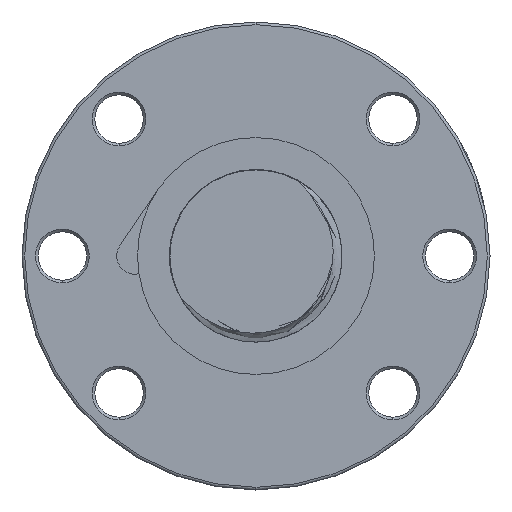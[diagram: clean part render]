
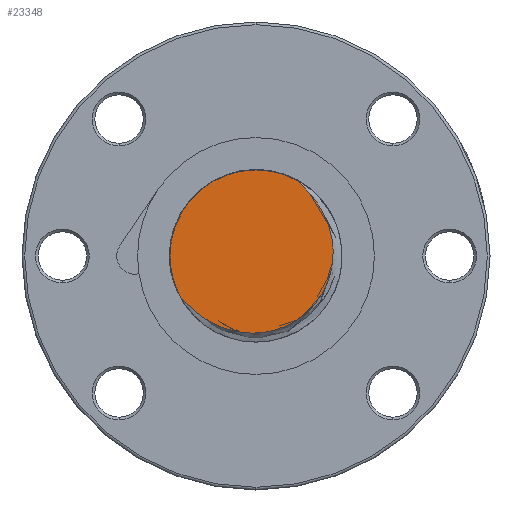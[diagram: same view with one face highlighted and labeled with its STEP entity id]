
A CAD part, left-side view. The second image highlights one B-rep face of the part: STEP entity #23348.
In plain terms, the highlighted planar face has unit normal (-1, 0, 0).
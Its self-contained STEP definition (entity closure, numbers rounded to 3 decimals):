
#5224 = FACE_OUTER_BOUND ( 'NONE', #23349, .T. ) ;
#5227 = DIRECTION ( 'NONE',  ( 0., 0., -1. ) ) ;
#5228 = DIRECTION ( 'NONE',  ( 1., 0., 0. ) ) ;
#5229 = CARTESIAN_POINT ( 'NONE',  ( -107., 0., 0. ) ) ;
#5230 = AXIS2_PLACEMENT_3D ( 'NONE', #5229, #5228, #5227 ) ;
#5237 = PLANE ( 'NONE',  #5230 ) ;
#5247 = CARTESIAN_POINT ( 'NONE',  ( -107., -0.482, -14.32 ) ) ;
#5248 = CARTESIAN_POINT ( 'NONE',  ( -107., 0.074, -14.35 ) ) ;
#5249 = CARTESIAN_POINT ( 'NONE',  ( -107., 1.19, -14.348 ) ) ;
#5250 = CARTESIAN_POINT ( 'NONE',  ( -107., 1.753, -14.317 ) ) ;
#5251 = CARTESIAN_POINT ( 'NONE',  ( -107., 3.435, -14.131 ) ) ;
#5252 = CARTESIAN_POINT ( 'NONE',  ( -107., -3.237, -13.861 ) ) ;
#5253 = CARTESIAN_POINT ( 'NONE',  ( -107., -7.809, -11.792 ) ) ;
#5254 = CARTESIAN_POINT ( 'NONE',  ( -107., -6.378, -12.683 ) ) ;
#5255 = CARTESIAN_POINT ( 'NONE',  ( -107., -5.37, -13.159 ) ) ;
#5256 = CARTESIAN_POINT ( 'NONE',  ( -107., -2.14, -14.108 ) ) ;
#5257 = CARTESIAN_POINT ( 'NONE',  ( -107., -1.589, -14.199 ) ) ;
#5258 = CARTESIAN_POINT ( 'NONE',  ( -107., -3.782, -13.707 ) ) ;
#5259 = CARTESIAN_POINT ( 'NONE',  ( -107., -9.15, -10.768 ) ) ;
#5260 = CARTESIAN_POINT ( 'NONE',  ( -107., -8.273, -11.465 ) ) ;
#5261 = CARTESIAN_POINT ( 'NONE',  ( -107., -11.761, -7.853 ) ) ;
#5262 = CARTESIAN_POINT ( 'NONE',  ( -107., -11.432, -8.315 ) ) ;
#5263 = CARTESIAN_POINT ( 'NONE',  ( -107., -10.73, -9.193 ) ) ;
#5264 = CARTESIAN_POINT ( 'NONE',  ( -107., -9.983, -10.025 ) ) ;
#5265 = CARTESIAN_POINT ( 'NONE',  ( -107., -13.137, -5.424 ) ) ;
#5266 = CARTESIAN_POINT ( 'NONE',  ( -107., -13.848, -3.287 ) ) ;
#5267 = CARTESIAN_POINT ( 'NONE',  ( -107., -13.691, -3.832 ) ) ;
#5268 = CARTESIAN_POINT ( 'NONE',  ( -107., -12.656, -6.43 ) ) ;
#5269 = CARTESIAN_POINT ( 'NONE',  ( -107., -14.19, -1.644 ) ) ;
#5270 = CARTESIAN_POINT ( 'NONE',  ( -107., -14.097, -2.194 ) ) ;
#5271 = CARTESIAN_POINT ( 'NONE',  ( -107., -14.317, -0.536 ) ) ;
#5272 = CARTESIAN_POINT ( 'NONE',  ( -107., -12.457, 8.126 ) ) ;
#5273 = CARTESIAN_POINT ( 'NONE',  ( -107., -11.6, 9.565 ) ) ;
#5274 = CARTESIAN_POINT ( 'NONE',  ( -107., -11.901, 9.094 ) ) ;
#5275 = CARTESIAN_POINT ( 'NONE',  ( -107., -14.14, 3.385 ) ) ;
#5276 = CARTESIAN_POINT ( 'NONE',  ( -107., -13.17, 6.606 ) ) ;
#5277 = CARTESIAN_POINT ( 'NONE',  ( -107., -13.375, 6.077 ) ) ;
#5278 = CARTESIAN_POINT ( 'NONE',  ( -107., -12.711, 7.629 ) ) ;
#5279 = CARTESIAN_POINT ( 'NONE',  ( -107., -13.902, 4.476 ) ) ;
#5280 = CARTESIAN_POINT ( 'NONE',  ( -107., -14.321, 1.713 ) ) ;
#5281 = CARTESIAN_POINT ( 'NONE',  ( -107., -14.351, 1.147 ) ) ;
#5282 = CARTESIAN_POINT ( 'NONE',  ( -107., -14.349, 0.023 ) ) ;
#5283 = CARTESIAN_POINT ( 'NONE',  ( -107., -8.74, 13.036 ) ) ;
#5284 = CARTESIAN_POINT ( 'NONE',  ( -107., -8.161, 13.651 ) ) ;
#5285 = CARTESIAN_POINT ( 'NONE',  ( -107., -9.512, 12.214 ) ) ;
#5286 = CARTESIAN_POINT ( 'NONE',  ( -107., -8.935, 12.832 ) ) ;
#5287 = CARTESIAN_POINT ( 'NONE',  ( -107., -8.354, 13.446 ) ) ;
#5288 = CARTESIAN_POINT ( 'NONE',  ( -107., -9.889, 11.796 ) ) ;
#5289 = CARTESIAN_POINT ( 'NONE',  ( -107., -10.609, 10.93 ) ) ;
#5290 = CARTESIAN_POINT ( 'NONE',  ( -107., -10.954, 10.482 ) ) ;
#5291 = CARTESIAN_POINT ( 'NONE',  ( -107., -7.981, 13.868 ) ) ;
#5309 = CARTESIAN_POINT ( 'NONE',  ( -107., 13.039, -8.737 ) ) ;
#5310 = CARTESIAN_POINT ( 'NONE',  ( -107., 13.448, -8.351 ) ) ;
#5311 = CARTESIAN_POINT ( 'NONE',  ( -107., 13.652, -8.159 ) ) ;
#5312 = CARTESIAN_POINT ( 'NONE',  ( -107., 4.524, -13.891 ) ) ;
#5313 = CARTESIAN_POINT ( 'NONE',  ( -107., 6.113, -13.363 ) ) ;
#5314 = CARTESIAN_POINT ( 'NONE',  ( -107., 6.635, -13.159 ) ) ;
#5315 = CARTESIAN_POINT ( 'NONE',  ( -107., 7.663, -12.694 ) ) ;
#5316 = CARTESIAN_POINT ( 'NONE',  ( -107., 8.163, -12.436 ) ) ;
#5317 = CARTESIAN_POINT ( 'NONE',  ( -107., 9.613, -11.599 ) ) ;
#5318 = CARTESIAN_POINT ( 'NONE',  ( -107., 10.519, -10.953 ) ) ;
#5319 = CARTESIAN_POINT ( 'NONE',  ( -107., 11.805, -9.882 ) ) ;
#5320 = CARTESIAN_POINT ( 'NONE',  ( -107., 12.221, -9.507 ) ) ;
#5321 = CARTESIAN_POINT ( 'NONE',  ( -107., 12.836, -8.931 ) ) ;
#5322 = CARTESIAN_POINT ( 'NONE',  ( -107., 13.869, -7.979 ) ) ;
#5323 = B_SPLINE_CURVE_WITH_KNOTS ( 'NONE', 3,
 ( #5322, #5311, #5310, #5309, #5321, #5320, #5319, #5318, #5317, #5316, #5315, #5314, #5313, #5312, #5251, #5250, #5249, #5248, #5247, #5257, #5256, #5252, #5258, #5255, #5254, #5253, #5260, #5259, #5264, #5263, #5262, #5261, #5268, #5265, #5267, #5266, #5270, #5269, #5271, #5282, #5281, #5280, #5275, #5279, #5277, #5276, #5278, #5272, #5274, #5273, #5290, #5289, #5288, #5285, #5286, #5283, #5287, #5284, #5291 ),
 .UNSPECIFIED., .F., .F.,
 ( 4, 2, 2, 2, 2, 2, 2, 2, 2, 2, 2, 2, 2, 2, 1, 2, 2, 2, 2, 2, 2, 2, 2, 2, 2, 2, 2, 2, 2, 4 ),
 ( 0.012, 0.013, 0.014, 0.015, 0.019, 0.02, 0.022, 0.025, 0.027, 0.028, 0.03, 0.032, 0.035, 0.037, 0.038, 0.04, 0.042, 0.045, 0.047, 0.048, 0.05, 0.052, 0.055, 0.057, 0.058, 0.06, 0.062, 0.063, 0.064, 0.065 ),
 .UNSPECIFIED. ) ;
#5609 = CARTESIAN_POINT ( 'NONE',  ( -107., 0., 16. ) ) ;
#5610 = CARTESIAN_POINT ( 'NONE',  ( -107., 13.869, -7.979 ) ) ;
#5611 = DIRECTION ( 'NONE',  ( 0., 1., 0. ) ) ;
#5612 = DIRECTION ( 'NONE',  ( 1., 0., 0. ) ) ;
#5613 = CARTESIAN_POINT ( 'NONE',  ( -107., 0., 0. ) ) ;
#5614 = AXIS2_PLACEMENT_3D ( 'NONE', #5613, #5612, #5611 ) ;
#5619 = CIRCLE ( 'NONE', #5614, 16. ) ;
#22558 = EDGE_CURVE ( 'NONE', #23448, #22559, #25111, .T. ) ;
#22559 = VERTEX_POINT ( 'NONE', #25107 ) ;
#23221 = ORIENTED_EDGE ( 'NONE', *, *, #22558, .F. ) ;
#23348 = ADVANCED_FACE ( 'NONE', ( #5224 ), #5237, .F. ) ;
#23349 = EDGE_LOOP ( 'NONE', ( #23351, #23355, #23221 ) ) ;
#23351 = ORIENTED_EDGE ( 'NONE', *, *, #23446, .F. ) ;
#23355 = ORIENTED_EDGE ( 'NONE', *, *, #23356, .T. ) ;
#23356 = EDGE_CURVE ( 'NONE', #23447, #22559, #5323, .T. ) ;
#23446 = EDGE_CURVE ( 'NONE', #23447, #23448, #5619, .T. ) ;
#23447 = VERTEX_POINT ( 'NONE', #5610 ) ;
#23448 = VERTEX_POINT ( 'NONE', #5609 ) ;
#25107 = CARTESIAN_POINT ( 'NONE',  ( -107., -7.981, 13.868 ) ) ;
#25108 = DIRECTION ( 'NONE',  ( 0., 1., 0. ) ) ;
#25109 = DIRECTION ( 'NONE',  ( 1., 0., 0. ) ) ;
#25110 = AXIS2_PLACEMENT_3D ( 'NONE', #25115, #25109, #25108 ) ;
#25111 = CIRCLE ( 'NONE', #25110, 16. ) ;
#25115 = CARTESIAN_POINT ( 'NONE',  ( -107., 0., 0. ) ) ;
